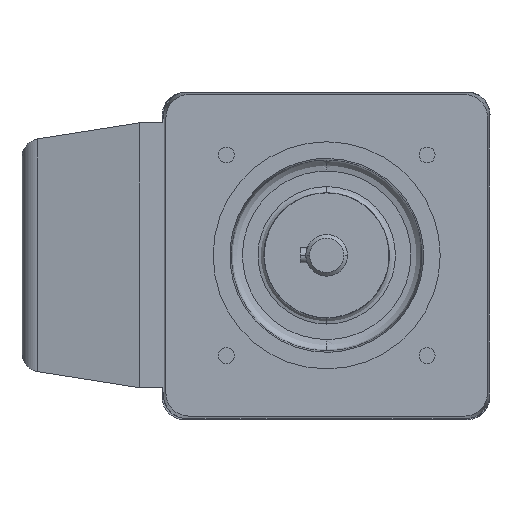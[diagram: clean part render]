
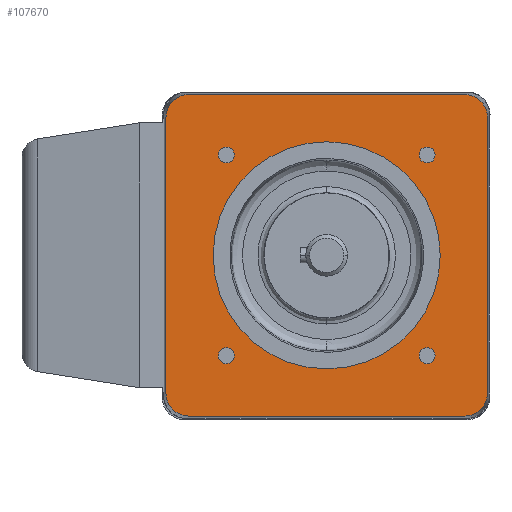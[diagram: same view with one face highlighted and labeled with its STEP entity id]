
A CAD part, left-side view. The second image highlights one B-rep face of the part: STEP entity #107670.
In plain terms, the highlighted planar face has unit normal (-1, 0, 0).
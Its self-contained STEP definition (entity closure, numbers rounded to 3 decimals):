
#25370=CARTESIAN_POINT('',(-217.458,-328.954,
8.558));
#25380=VERTEX_POINT('',#25370);
#25410=CARTESIAN_POINT('',(-217.458,-328.954,
88.036));
#25420=DIRECTION('',(0.,0.,-1.));
#25430=VECTOR('',#25420,1.);
#25440=LINE('',#25410,#25430);
#25450=CARTESIAN_POINT('',(-217.458,-328.954,
81.477));
#25460=VERTEX_POINT('',#25450);
#25470=EDGE_CURVE('',#25460,#25380,#25440,.T.);
#33100=CARTESIAN_POINT('',(-217.458,-250.035,
2.559));
#33110=VERTEX_POINT('',#33100);
#33140=CARTESIAN_POINT('',(-217.458,-331.324,
2.559));
#33150=DIRECTION('',(0.,1.,0.));
#33160=VECTOR('',#33150,1.);
#33170=LINE('',#33140,#33160);
#33180=CARTESIAN_POINT('',(-217.458,-322.955,
2.559));
#33190=VERTEX_POINT('',#33180);
#33200=EDGE_CURVE('',#33190,#33110,#33170,.T.);
#45040=CARTESIAN_POINT('',(-217.458,-244.036,
81.477));
#45050=VERTEX_POINT('',#45040);
#45080=CARTESIAN_POINT('',(-217.458,-244.036,
88.036));
#45090=DIRECTION('',(0.,0.,1.));
#45100=VECTOR('',#45090,1.);
#45110=LINE('',#45080,#45100);
#45120=CARTESIAN_POINT('',(-217.458,-244.036,
8.558));
#45130=VERTEX_POINT('',#45120);
#45140=EDGE_CURVE('',#45130,#45050,#45110,.T.);
#45580=CARTESIAN_POINT('',(-217.458,-250.037,
8.559));
#45590=DIRECTION('',(-1.,0.,0.));
#45600=DIRECTION('',(0.,0.707,-0.707));
#45610=AXIS2_PLACEMENT_3D('',#45580,#45590,#45600);
#45620=ELLIPSE('',#45610,6.002,6.);
#45630=EDGE_CURVE('',#45130,#33110,#45620,.T.);
#71010=CARTESIAN_POINT('',(-217.458,-250.035,
87.476));
#71020=VERTEX_POINT('',#71010);
#71050=CARTESIAN_POINT('',(-217.458,-250.037,
81.475));
#71060=DIRECTION('',(-1.,0.,0.));
#71070=DIRECTION('',(0.,0.707,0.707));
#71080=AXIS2_PLACEMENT_3D('',#71050,#71060,#71070);
#71090=ELLIPSE('',#71080,6.002,6.);
#71100=EDGE_CURVE('',#71020,#45050,#71090,.T.);
#73400=CARTESIAN_POINT('',(-217.458,-322.955,
87.476));
#73410=VERTEX_POINT('',#73400);
#73440=CARTESIAN_POINT('',(-217.458,-331.324,
87.476));
#73450=DIRECTION('',(0.,-1.,0.));
#73460=VECTOR('',#73450,1.);
#73470=LINE('',#73440,#73460);
#73480=EDGE_CURVE('',#71020,#73410,#73470,.T.);
#80200=CARTESIAN_POINT('',(-217.458,-322.953,
81.475));
#80210=DIRECTION('',(-1.,0.,0.));
#80220=DIRECTION('',(0.,0.707,-0.707));
#80230=AXIS2_PLACEMENT_3D('',#80200,#80210,#80220);
#80240=ELLIPSE('',#80230,6.002,6.);
#80250=EDGE_CURVE('',#25460,#73410,#80240,.T.);
#106650=CARTESIAN_POINT('',(-217.458,-322.953,
8.559));
#106660=DIRECTION('',(-1.,0.,0.));
#106670=DIRECTION('',(0.,0.707,0.707));
#106680=AXIS2_PLACEMENT_3D('',#106650,#106660,#106670);
#106690=ELLIPSE('',#106680,6.002,6.);
#106700=EDGE_CURVE('',#33190,#25380,#106690,.T.);
#106770=CARTESIAN_POINT('',(-217.458,-311.236,
26.024));
#106780=DIRECTION('',(-1.,0.,0.));
#106790=DIRECTION('',(0.,0.,1.));
#106800=AXIS2_PLACEMENT_3D('',#106770,#106780,#106790);
#106810=PLANE('',#106800);
#106820=ORIENTED_EDGE('',*,*,#45140,.F.);
#106830=ORIENTED_EDGE('',*,*,#71100,.T.);
#106840=ORIENTED_EDGE('',*,*,#73480,.F.);
#106850=ORIENTED_EDGE('',*,*,#80250,.T.);
#106860=ORIENTED_EDGE('',*,*,#25470,.F.);
#106870=ORIENTED_EDGE('',*,*,#106700,.T.);
#106880=ORIENTED_EDGE('',*,*,#33200,.F.);
#106890=ORIENTED_EDGE('',*,*,#45630,.T.);
#106900=EDGE_LOOP('',(#106890,#106880,#106870,#106860,#106850,#106840,
#106830,#106820));
#106910=FACE_OUTER_BOUND('',#106900,.T.);
#106920=CARTESIAN_POINT('',(-217.458,-286.496,
45.017));
#106930=DIRECTION('',(-1.,0.,0.));
#106940=DIRECTION('',(0.,0.,1.));
#106950=AXIS2_PLACEMENT_3D('',#106920,#106930,#106940);
#106960=CIRCLE('',#106950,30.);
#106970=CARTESIAN_POINT('',(-217.458,-286.496,
15.017));
#106980=VERTEX_POINT('',#106970);
#106990=CARTESIAN_POINT('',(-217.458,-286.496,
75.017));
#107000=VERTEX_POINT('',#106990);
#107010=EDGE_CURVE('',#106980,#107000,#106960,.T.);
#107020=ORIENTED_EDGE('',*,*,#107010,.F.);
#107030=EDGE_CURVE('',#107000,#106980,#106960,.T.);
#107040=ORIENTED_EDGE('',*,*,#107030,.F.);
#107050=EDGE_LOOP('',(#107040,#107020));
#107060=FACE_BOUND('',#107050,.T.);
#107070=CARTESIAN_POINT('',(-217.458,-259.979,
18.501));
#107080=DIRECTION('',(-1.,0.,0.));
#107090=DIRECTION('',(0.,-1.,0.));
#107100=AXIS2_PLACEMENT_3D('',#107070,#107080,#107090);
#107110=CIRCLE('',#107100,2.1);
#107120=CARTESIAN_POINT('',(-217.458,-257.879,
18.501));
#107130=VERTEX_POINT('',#107120);
#107140=CARTESIAN_POINT('',(-217.458,-262.079,
18.501));
#107150=VERTEX_POINT('',#107140);
#107160=EDGE_CURVE('',#107130,#107150,#107110,.T.);
#107170=ORIENTED_EDGE('',*,*,#107160,.F.);
#107180=EDGE_CURVE('',#107150,#107130,#107110,.T.);
#107190=ORIENTED_EDGE('',*,*,#107180,.F.);
#107200=EDGE_LOOP('',(#107190,#107170));
#107210=FACE_BOUND('',#107200,.T.);
#107220=CARTESIAN_POINT('',(-217.458,-313.012,
18.501));
#107230=DIRECTION('',(-1.,0.,0.));
#107240=DIRECTION('',(0.,0.,1.));
#107250=AXIS2_PLACEMENT_3D('',#107220,#107230,#107240);
#107260=CIRCLE('',#107250,2.1);
#107270=CARTESIAN_POINT('',(-217.458,-313.012,
16.401));
#107280=VERTEX_POINT('',#107270);
#107290=CARTESIAN_POINT('',(-217.458,-313.012,
20.601));
#107300=VERTEX_POINT('',#107290);
#107310=EDGE_CURVE('',#107280,#107300,#107260,.T.);
#107320=ORIENTED_EDGE('',*,*,#107310,.F.);
#107330=EDGE_CURVE('',#107300,#107280,#107260,.T.);
#107340=ORIENTED_EDGE('',*,*,#107330,.F.);
#107350=EDGE_LOOP('',(#107340,#107320));
#107360=FACE_BOUND('',#107350,.T.);
#107370=CARTESIAN_POINT('',(-217.458,-313.012,
71.534));
#107380=DIRECTION('',(-1.,0.,0.));
#107390=DIRECTION('',(0.,1.,0.));
#107400=AXIS2_PLACEMENT_3D('',#107370,#107380,#107390);
#107410=CIRCLE('',#107400,2.1);
#107420=CARTESIAN_POINT('',(-217.458,-310.912,
71.534));
#107430=VERTEX_POINT('',#107420);
#107440=CARTESIAN_POINT('',(-217.458,-315.112,
71.534));
#107450=VERTEX_POINT('',#107440);
#107460=EDGE_CURVE('',#107430,#107450,#107410,.T.);
#107470=ORIENTED_EDGE('',*,*,#107460,.F.);
#107480=EDGE_CURVE('',#107450,#107430,#107410,.T.);
#107490=ORIENTED_EDGE('',*,*,#107480,.F.);
#107500=EDGE_LOOP('',(#107490,#107470));
#107510=FACE_BOUND('',#107500,.T.);
#107520=CARTESIAN_POINT('',(-217.458,-259.979,
71.534));
#107530=DIRECTION('',(-1.,0.,0.));
#107540=DIRECTION('',(0.,0.,-1.));
#107550=AXIS2_PLACEMENT_3D('',#107520,#107530,#107540);
#107560=CIRCLE('',#107550,2.1);
#107570=CARTESIAN_POINT('',(-217.458,-259.979,
69.434));
#107580=VERTEX_POINT('',#107570);
#107590=CARTESIAN_POINT('',(-217.458,-259.979,
73.634));
#107600=VERTEX_POINT('',#107590);
#107610=EDGE_CURVE('',#107580,#107600,#107560,.T.);
#107620=ORIENTED_EDGE('',*,*,#107610,.F.);
#107630=EDGE_CURVE('',#107600,#107580,#107560,.T.);
#107640=ORIENTED_EDGE('',*,*,#107630,.F.);
#107650=EDGE_LOOP('',(#107640,#107620));
#107660=FACE_BOUND('',#107650,.T.);
#107670=ADVANCED_FACE('',(#106910,#107060,#107210,#107360,#107510,
#107660),#106810,.T.);
